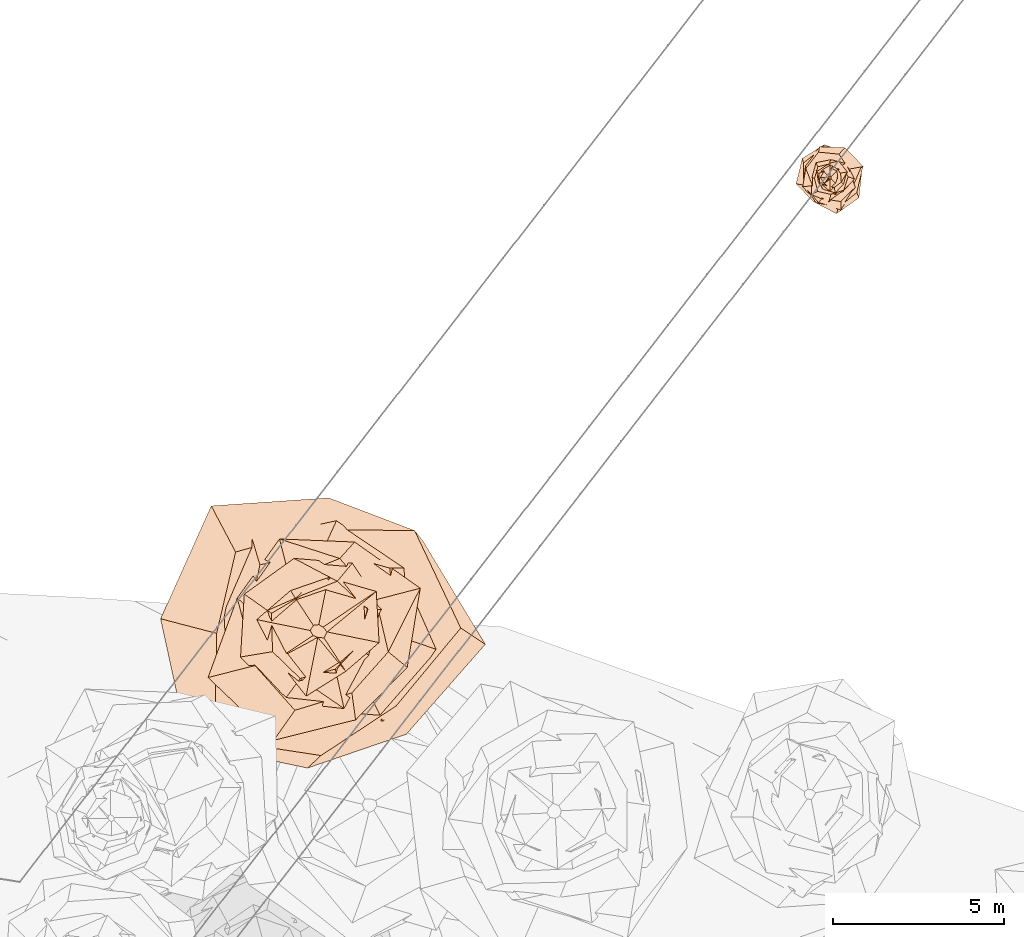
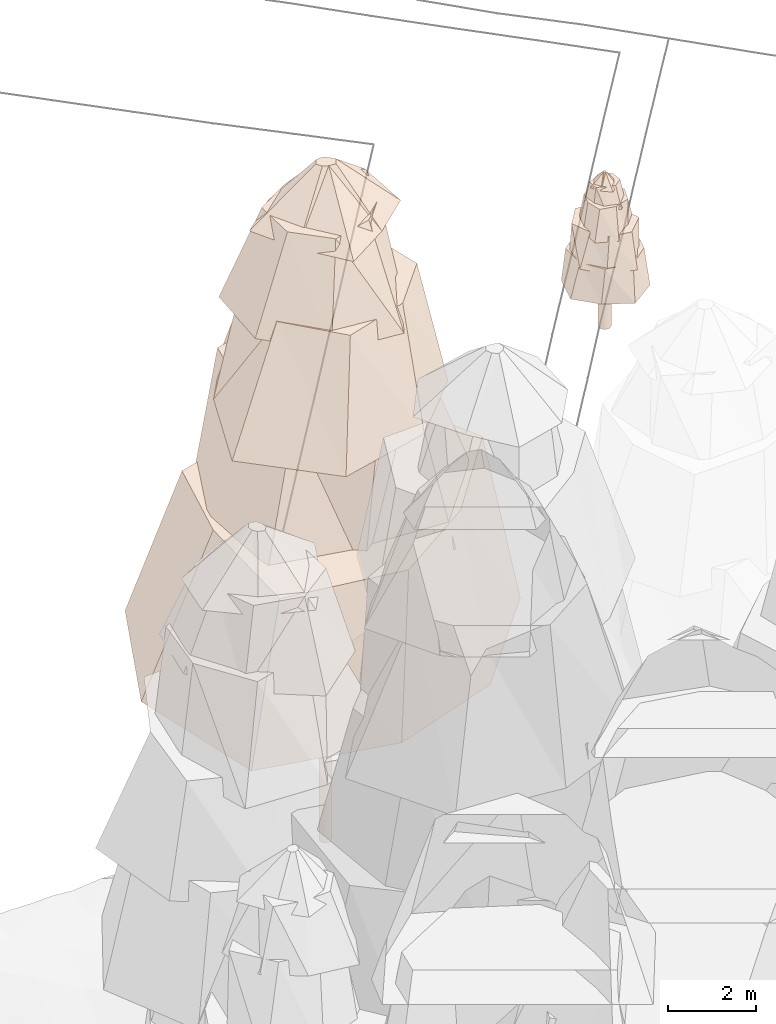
# Not in any storey, part 63 of 88: 2 geographic elements.
"""IFC4 model written with IfcOpenShell, lengths in metres."""

from ifc_helpers import new_model, si_unit, frame, origin_with_axes, place, context, subcontext, project, spatial, circle, extrude, faceted_brep, element, save


model = new_model("IFC4")

# Units and contexts
model_context = context("Model", 3, precision=1e-05, world=origin_with_axes())
body_context = subcontext(model_context, "Body", "Model", "MODEL_VIEW")
ifc_project = project(units=[si_unit("LENGTHUNIT", "METRE"), si_unit("AREAUNIT", "SQUARE_METRE"), si_unit("VOLUMEUNIT", "CUBIC_METRE"), si_unit("PLANEANGLEUNIT", "RADIAN")], contexts=[model_context])

# Sites
site_1_placement = place(None, origin_with_axes())
site_1 = spatial("IfcSite", under=ifc_project, at=site_1_placement, Name="CH907857693633", CompositionType="ELEMENT")
site_2_placement = place(None, origin_with_axes())
site_2 = spatial("IfcSite", under=site_1, at=site_2_placement, Name="Vegetation", CompositionType="ELEMENT")

# Geographic element
geographic_element_1_placement = place(None, frame((180.000000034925, 117.500003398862, 8.79296875), z_axis=(0.0, 0.0, 1.0), x_axis=(1.0, 0.0, 0.0)))
element("IfcGeographicElement", 1, at=geographic_element_1_placement, inside=site_2, Name="Tree_einzelbaum", ObjectType="VEGETATION", PredefinedType="USERDEFINED", context=body_context, shape_type="Brep", body=[
    extrude(circle(Radius=0.15), origin_with_axes(), (0.0, 0.0, 1.0), 1.18637976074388),
    faceted_brep([(0.845813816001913, -0.588965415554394, 1.18637976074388), (0.188372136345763, -1.05226440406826, 1.18637976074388), (-0.486950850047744, -0.699310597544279, 1.18637976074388), (-0.991410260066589, -0.177478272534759, 1.18637976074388), (-0.808964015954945, 0.563305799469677, 1.18637976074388), (-0.172510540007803, 0.963660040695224, 1.18637976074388), (0.499916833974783, 0.717931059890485, 1.18637976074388), (0.925909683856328, 0.16575262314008, 1.18637976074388), (0.948022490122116, 0.269674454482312, 2.1433260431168), (0.428035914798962, 0.768363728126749, 2.1433260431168), (-0.242442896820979, 0.852291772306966, 2.1433260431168), (-0.772822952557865, 0.43052003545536, 2.1433260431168), (-0.769503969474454, -0.21889308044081, 2.1433260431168), (-0.406570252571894, -0.729830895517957, 2.1433260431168), (0.246532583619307, -0.866668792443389, 2.1433260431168), (0.779845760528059, -0.434432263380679, 2.1433260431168), (0.925909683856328, 0.16575262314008, 1.18637976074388), (0.499916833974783, 0.717931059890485, 1.18637976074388), (0.428035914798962, 0.768363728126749, 2.1433260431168), (0.948022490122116, 0.269674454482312, 2.1433260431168), (0.499916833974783, 0.717931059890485, 1.18637976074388), (-0.172510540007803, 0.963660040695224, 1.18637976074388), (-0.242442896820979, 0.852291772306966, 2.1433260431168), (0.428035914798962, 0.768363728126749, 2.1433260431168), (-0.172510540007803, 0.963660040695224, 1.18637976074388), (-0.808964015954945, 0.563305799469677, 1.18637976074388), (-0.772822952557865, 0.43052003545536, 2.1433260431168), (-0.242442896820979, 0.852291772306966, 2.1433260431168), (-0.808964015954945, 0.563305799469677, 1.18637976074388), (-0.991410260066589, -0.177478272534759, 1.18637976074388), (-0.769503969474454, -0.21889308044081, 2.1433260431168), (-0.772822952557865, 0.43052003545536, 2.1433260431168), (-0.991410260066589, -0.177478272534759, 1.18637976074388), (-0.486950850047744, -0.699310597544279, 1.18637976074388), (-0.406570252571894, -0.729830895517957, 2.1433260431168), (-0.769503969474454, -0.21889308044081, 2.1433260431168), (-0.486950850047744, -0.699310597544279, 1.18637976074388), (0.188372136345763, -1.05226440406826, 1.18637976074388), (0.246532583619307, -0.866668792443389, 2.1433260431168), (-0.406570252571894, -0.729830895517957, 2.1433260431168), (0.188372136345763, -1.05226440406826, 1.18637976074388), (0.845813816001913, -0.588965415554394, 1.18637976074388), (0.779845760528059, -0.434432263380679, 2.1433260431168), (0.246532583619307, -0.866668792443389, 2.1433260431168), (0.845813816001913, -0.588965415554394, 1.18637976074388), (0.925909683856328, 0.16575262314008, 1.18637976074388), (0.948022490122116, 0.269674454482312, 2.1433260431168), (0.779845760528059, -0.434432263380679, 2.1433260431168)], [[[0, 1, 2, 3, 4, 5, 6, 7]], [[8, 9, 10, 11, 12, 13, 14, 15]], [[16, 17, 18, 19]], [[20, 21, 22, 23]], [[24, 25, 26, 27]], [[28, 29, 30, 31]], [[32, 33, 34, 35]], [[36, 37, 38, 39]], [[40, 41, 42, 43]], [[44, 45, 46, 47]]]),
    faceted_brep([(0.693019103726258, -0.345421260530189, 1.99978410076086), (0.314811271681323, -0.940491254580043, 1.99978410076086), (-0.368666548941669, -0.739656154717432, 1.99978410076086), (-0.798711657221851, -0.267353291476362, 1.99978410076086), (-0.716646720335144, 0.357197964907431, 1.99978410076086), (-0.303082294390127, 0.905451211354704, 1.99978410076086), (0.435364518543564, 0.873472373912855, 1.99978410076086), (0.974534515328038, 0.326206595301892, 1.99978410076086), (0.554407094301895, 0.249585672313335, 2.90299165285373), (0.260940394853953, 0.68825277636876, 2.90299165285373), (-0.33563963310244, 0.745559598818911, 2.90299165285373), (-0.708064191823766, 0.268451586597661, 2.90299165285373), (-0.510121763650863, -0.229649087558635, 2.90299165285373), (-0.232723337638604, -0.61382785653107, 2.90299165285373), (0.312809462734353, -0.694846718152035, 2.90299165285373), (0.736722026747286, -0.279316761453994, 2.90299165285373), (0.974534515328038, 0.326206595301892, 1.99978410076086), (0.435364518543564, 0.873472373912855, 1.99978410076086), (0.260940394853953, 0.68825277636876, 2.90299165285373), (0.554407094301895, 0.249585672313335, 2.90299165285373), (0.435364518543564, 0.873472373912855, 1.99978410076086), (-0.303082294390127, 0.905451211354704, 1.99978410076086), (-0.33563963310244, 0.745559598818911, 2.90299165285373), (0.260940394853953, 0.68825277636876, 2.90299165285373), (-0.303082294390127, 0.905451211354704, 1.99978410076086), (-0.716646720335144, 0.357197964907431, 1.99978410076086), (-0.708064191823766, 0.268451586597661, 2.90299165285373), (-0.33563963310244, 0.745559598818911, 2.90299165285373), (-0.716646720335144, 0.357197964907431, 1.99978410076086), (-0.798711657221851, -0.267353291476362, 1.99978410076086), (-0.510121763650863, -0.229649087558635, 2.90299165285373), (-0.708064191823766, 0.268451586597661, 2.90299165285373), (-0.798711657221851, -0.267353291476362, 1.99978410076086), (-0.368666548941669, -0.739656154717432, 1.99978410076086), (-0.232723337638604, -0.61382785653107, 2.90299165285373), (-0.510121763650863, -0.229649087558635, 2.90299165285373), (-0.368666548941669, -0.739656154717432, 1.99978410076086), (0.314811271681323, -0.940491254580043, 1.99978410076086), (0.312809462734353, -0.694846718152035, 2.90299165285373), (-0.232723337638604, -0.61382785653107, 2.90299165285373), (0.314811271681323, -0.940491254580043, 1.99978410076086), (0.693019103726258, -0.345421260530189, 1.99978410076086), (0.736722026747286, -0.279316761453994, 2.90299165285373), (0.312809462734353, -0.694846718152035, 2.90299165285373), (0.693019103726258, -0.345421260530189, 1.99978410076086), (0.974534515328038, 0.326206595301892, 1.99978410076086), (0.554407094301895, 0.249585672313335, 2.90299165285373), (0.736722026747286, -0.279316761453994, 2.90299165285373)], [[[0, 1, 2, 3, 4, 5, 6, 7]], [[8, 9, 10, 11, 12, 13, 14, 15]], [[16, 17, 18, 19]], [[20, 21, 22, 23]], [[24, 25, 26, 27]], [[28, 29, 30, 31]], [[32, 33, 34, 35]], [[36, 37, 38, 39]], [[40, 41, 42, 43]], [[44, 45, 46, 47]]]),
    faceted_brep([(0.715449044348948, -0.0342441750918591, 2.7675105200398), (0.374286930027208, -0.411917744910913, 2.7675105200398), (-0.0339044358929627, -0.708351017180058, 2.7675105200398), (-0.541830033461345, -0.49233105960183, 2.7675105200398), (-0.539339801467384, 0.0258149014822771, 2.7675105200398), (-0.41991438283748, 0.4621325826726, 2.7675105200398), (0.026300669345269, 0.549488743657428, 2.7675105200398), (0.473329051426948, 0.43008799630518, 2.7675105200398), (0.311575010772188, 0.34590881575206, 3.57726330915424), (-0.0209223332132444, 0.400657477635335, 3.57726330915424), (-0.355967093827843, 0.320634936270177, 3.57726330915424), (-0.452742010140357, -0.0236421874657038, 3.57726330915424), (-0.360592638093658, -0.400327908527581, 3.57726330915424), (0.0253698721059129, -0.485826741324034, 3.57726330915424), (0.401631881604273, -0.361767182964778, 3.57726330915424), (0.531113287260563, 0.0277347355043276, 3.57726330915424), (0.473329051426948, 0.43008799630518, 2.7675105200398), (0.026300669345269, 0.549488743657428, 2.7675105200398), (-0.0209223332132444, 0.400657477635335, 3.57726330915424), (0.311575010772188, 0.34590881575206, 3.57726330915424), (0.026300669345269, 0.549488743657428, 2.7675105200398), (-0.41991438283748, 0.4621325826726, 2.7675105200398), (-0.355967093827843, 0.320634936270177, 3.57726330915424), (-0.0209223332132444, 0.400657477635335, 3.57726330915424), (-0.41991438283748, 0.4621325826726, 2.7675105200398), (-0.539339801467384, 0.0258149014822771, 2.7675105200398), (-0.452742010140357, -0.0236421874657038, 3.57726330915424), (-0.355967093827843, 0.320634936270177, 3.57726330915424), (-0.539339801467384, 0.0258149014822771, 2.7675105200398), (-0.541830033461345, -0.49233105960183, 2.7675105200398), (-0.360592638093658, -0.400327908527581, 3.57726330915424), (-0.452742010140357, -0.0236421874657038, 3.57726330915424), (-0.541830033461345, -0.49233105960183, 2.7675105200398), (-0.0339044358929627, -0.708351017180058, 2.7675105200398), (0.0253698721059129, -0.485826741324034, 3.57726330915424), (-0.360592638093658, -0.400327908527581, 3.57726330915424), (-0.0339044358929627, -0.708351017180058, 2.7675105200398), (0.374286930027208, -0.411917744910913, 2.7675105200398), (0.401631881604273, -0.361767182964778, 3.57726330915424), (0.0253698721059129, -0.485826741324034, 3.57726330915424), (0.374286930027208, -0.411917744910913, 2.7675105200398), (0.715449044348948, -0.0342441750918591, 2.7675105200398), (0.531113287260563, 0.0277347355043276, 3.57726330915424), (0.401631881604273, -0.361767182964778, 3.57726330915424), (0.715449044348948, -0.0342441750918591, 2.7675105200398), (0.473329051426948, 0.43008799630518, 2.7675105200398), (0.311575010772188, 0.34590881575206, 3.57726330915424), (0.531113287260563, 0.0277347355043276, 3.57726330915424)], [[[0, 1, 2, 3, 4, 5, 6, 7]], [[8, 9, 10, 11, 12, 13, 14, 15]], [[16, 17, 18, 19]], [[20, 21, 22, 23]], [[24, 25, 26, 27]], [[28, 29, 30, 31]], [[32, 33, 34, 35]], [[36, 37, 38, 39]], [[40, 41, 42, 43]], [[44, 45, 46, 47]]]),
    faceted_brep([(0.414441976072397, -0.209619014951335, 3.45580039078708), (0.161794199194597, -0.492959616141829, 3.45580039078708), (-0.192906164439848, -0.381398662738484, 3.45580039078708), (-0.355028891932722, -0.116523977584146, 3.45580039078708), (-0.405852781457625, 0.205274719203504, 3.45580039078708), (-0.128559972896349, 0.391700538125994, 3.45580039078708), (0.246952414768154, 0.488254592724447, 3.45580039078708), (0.507542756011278, 0.16658052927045, 3.45580039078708), (0.306010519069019, 0.135604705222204, 4.00595782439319), (0.125030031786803, 0.324021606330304, 4.00595782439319), (-0.0961913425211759, 0.217068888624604, 4.00595782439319), (-0.327451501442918, 0.12635352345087, 4.00595782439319), (-0.303256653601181, -0.134384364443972, 4.00595782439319), (-0.0917065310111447, -0.237662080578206, 4.00595782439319), (0.125866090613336, -0.284034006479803, 4.00595782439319), (0.328935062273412, -0.126925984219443, 4.00595782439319), (0.507542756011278, 0.16658052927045, 3.45580039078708), (0.246952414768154, 0.488254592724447, 3.45580039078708), (0.125030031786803, 0.324021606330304, 4.00595782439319), (0.306010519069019, 0.135604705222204, 4.00595782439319), (0.246952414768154, 0.488254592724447, 3.45580039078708), (-0.128559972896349, 0.391700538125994, 3.45580039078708), (-0.0961913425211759, 0.217068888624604, 4.00595782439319), (0.125030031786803, 0.324021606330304, 4.00595782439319), (-0.128559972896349, 0.391700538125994, 3.45580039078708), (-0.405852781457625, 0.205274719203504, 3.45580039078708), (-0.327451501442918, 0.12635352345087, 4.00595782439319), (-0.0961913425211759, 0.217068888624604, 4.00595782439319), (-0.405852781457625, 0.205274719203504, 3.45580039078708), (-0.355028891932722, -0.116523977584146, 3.45580039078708), (-0.303256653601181, -0.134384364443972, 4.00595782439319), (-0.327451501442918, 0.12635352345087, 4.00595782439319), (-0.355028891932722, -0.116523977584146, 3.45580039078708), (-0.192906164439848, -0.381398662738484, 3.45580039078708), (-0.0917065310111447, -0.237662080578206, 4.00595782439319), (-0.303256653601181, -0.134384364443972, 4.00595782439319), (-0.192906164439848, -0.381398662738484, 3.45580039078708), (0.161794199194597, -0.492959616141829, 3.45580039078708), (0.125866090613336, -0.284034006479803, 4.00595782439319), (-0.0917065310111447, -0.237662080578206, 4.00595782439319), (0.161794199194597, -0.492959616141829, 3.45580039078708), (0.414441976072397, -0.209619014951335, 3.45580039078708), (0.328935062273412, -0.126925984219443, 4.00595782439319), (0.125866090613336, -0.284034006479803, 4.00595782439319), (0.414441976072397, -0.209619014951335, 3.45580039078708), (0.507542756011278, 0.16658052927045, 3.45580039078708), (0.306010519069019, 0.135604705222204, 4.00595782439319), (0.328935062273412, -0.126925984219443, 4.00595782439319)], [[[0, 1, 2, 3, 4, 5, 6, 7]], [[8, 9, 10, 11, 12, 13, 14, 15]], [[16, 17, 18, 19]], [[20, 21, 22, 23]], [[24, 25, 26, 27]], [[28, 29, 30, 31]], [[32, 33, 34, 35]], [[36, 37, 38, 39]], [[40, 41, 42, 43]], [[44, 45, 46, 47]]]),
    faceted_brep([(0.285338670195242, -0.00412584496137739, 3.92343420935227), (0.200428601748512, -0.20630982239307, 3.92343420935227), (-0.00562566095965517, -0.389064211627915, 3.92343420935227), (-0.222378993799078, -0.216039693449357, 3.92343420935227), (-0.362961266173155, 0.00524822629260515, 3.92343420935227), (-0.224888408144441, 0.231487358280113, 3.92343420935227), (0.00532041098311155, 0.367953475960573, 3.92343420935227), (0.26119166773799, 0.253745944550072, 3.92343420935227), (0.0272915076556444, 0.0324110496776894, 4.25761398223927), (-0.00301648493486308, 0.0351773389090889, 4.25761398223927), (-0.0289864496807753, 0.0244078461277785, 4.25761398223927), (-0.0340495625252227, -0.00291977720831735, 4.25761398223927), (-0.029882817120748, -0.035488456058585, 4.25761398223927), (0.00341291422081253, -0.0398003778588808, 4.25761398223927), (0.0331836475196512, -0.027942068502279, 4.25761398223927), (0.033776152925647, 0.00289633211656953, 4.25761398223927), (0.26119166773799, 0.253745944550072, 3.92343420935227), (0.00532041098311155, 0.367953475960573, 3.92343420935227), (-0.00301648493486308, 0.0351773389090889, 4.25761398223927), (0.0272915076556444, 0.0324110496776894, 4.25761398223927), (0.00532041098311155, 0.367953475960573, 3.92343420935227), (-0.224888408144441, 0.231487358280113, 3.92343420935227), (-0.0289864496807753, 0.0244078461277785, 4.25761398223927), (-0.00301648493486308, 0.0351773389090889, 4.25761398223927), (-0.224888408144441, 0.231487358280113, 3.92343420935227), (-0.362961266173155, 0.00524822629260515, 3.92343420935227), (-0.0340495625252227, -0.00291977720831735, 4.25761398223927), (-0.0289864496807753, 0.0244078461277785, 4.25761398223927), (-0.362961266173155, 0.00524822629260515, 3.92343420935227), (-0.222378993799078, -0.216039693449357, 3.92343420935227), (-0.029882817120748, -0.035488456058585, 4.25761398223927), (-0.0340495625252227, -0.00291977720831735, 4.25761398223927), (-0.222378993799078, -0.216039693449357, 3.92343420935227), (-0.00562566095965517, -0.389064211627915, 3.92343420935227), (0.00341291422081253, -0.0398003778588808, 4.25761398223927), (-0.029882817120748, -0.035488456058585, 4.25761398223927), (-0.00562566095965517, -0.389064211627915, 3.92343420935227), (0.200428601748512, -0.20630982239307, 3.92343420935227), (0.0331836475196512, -0.027942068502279, 4.25761398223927), (0.00341291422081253, -0.0398003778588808, 4.25761398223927), (0.200428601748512, -0.20630982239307, 3.92343420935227), (0.285338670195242, -0.00412584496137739, 3.92343420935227), (0.033776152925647, 0.00289633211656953, 4.25761398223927), (0.0331836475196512, -0.027942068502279, 4.25761398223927), (0.285338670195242, -0.00412584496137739, 3.92343420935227), (0.26119166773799, 0.253745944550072, 3.92343420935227), (0.0272915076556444, 0.0324110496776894, 4.25761398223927), (0.033776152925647, 0.00289633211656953, 4.25761398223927)], [[[0, 1, 2, 3, 4, 5, 6, 7]], [[8, 9, 10, 11, 12, 13, 14, 15]], [[16, 17, 18, 19]], [[20, 21, 22, 23]], [[24, 25, 26, 27]], [[28, 29, 30, 31]], [[32, 33, 34, 35]], [[36, 37, 38, 39]], [[40, 41, 42, 43]], [[44, 45, 46, 47]]]),
])

# Site
site_3_placement = place(None, origin_with_axes())
site_3 = spatial("IfcSite", under=site_1, at=site_3_placement, Name="Simulated_forest", CompositionType="ELEMENT")

# Geographic element
geographic_element_2_placement = place(None, frame((165.06578929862, 104.267374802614, 7.86767578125), z_axis=(0.0, 0.0, 1.0), x_axis=(1.0, 0.0, 0.0)))
element("IfcGeographicElement", 2, at=geographic_element_2_placement, inside=site_3, Name="Tree_SIMULATED_FOREST_DENSE", ObjectType="VEGETATION", PredefinedType="USERDEFINED", context=body_context, shape_type="Brep", body=[
    extrude(circle(Radius=0.15), origin_with_axes(), (0.0, 0.0, 1.0), 5.18723850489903),
    faceted_brep([(4.8735900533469, -0.382605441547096, 5.18723850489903), (2.5702751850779, -3.00821980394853, 5.18723850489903), (-0.313636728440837, -3.99507344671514, 5.18723850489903), (-3.81262960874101, -3.25757687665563, 5.18723850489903), (-4.60192695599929, 0.36127829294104, 5.18723850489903), (-3.12326787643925, 3.65543593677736, 5.18723850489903), (0.305334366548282, 3.88931878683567, 5.18723850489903), (3.0641521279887, 2.61806473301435, 5.18723850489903), (2.81119979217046, 2.93566657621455, 9.60978690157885), (-0.0641749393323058, 2.96307808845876, 9.60978690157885), (-2.41234200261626, 2.31006320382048, 9.60978690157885), (-2.96601564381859, -0.0642385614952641, 9.60978690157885), (-3.02021584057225, -3.15393687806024, 9.60978690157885), (0.0786211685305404, -3.63008775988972, 9.60978690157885), (2.27547205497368, -2.17899628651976, 9.60978690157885), (4.15761959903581, 0.0900465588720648, 9.60978690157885), (3.0641521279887, 2.61806473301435, 5.18723850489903), (0.305334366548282, 3.88931878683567, 5.18723850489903), (-0.0641749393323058, 2.96307808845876, 9.60978690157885), (2.81119979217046, 2.93566657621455, 9.60978690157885), (0.305334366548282, 3.88931878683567, 5.18723850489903), (-3.12326787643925, 3.65543593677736, 5.18723850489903), (-2.41234200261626, 2.31006320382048, 9.60978690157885), (-0.0641749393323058, 2.96307808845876, 9.60978690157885), (-3.12326787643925, 3.65543593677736, 5.18723850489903), (-4.60192695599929, 0.36127829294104, 5.18723850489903), (-2.96601564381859, -0.0642385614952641, 9.60978690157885), (-2.41234200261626, 2.31006320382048, 9.60978690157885), (-4.60192695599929, 0.36127829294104, 5.18723850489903), (-3.81262960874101, -3.25757687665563, 5.18723850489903), (-3.02021584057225, -3.15393687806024, 9.60978690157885), (-2.96601564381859, -0.0642385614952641, 9.60978690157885), (-3.81262960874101, -3.25757687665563, 5.18723850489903), (-0.313636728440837, -3.99507344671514, 5.18723850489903), (0.0786211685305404, -3.63008775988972, 9.60978690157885), (-3.02021584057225, -3.15393687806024, 9.60978690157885), (-0.313636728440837, -3.99507344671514, 5.18723850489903), (2.5702751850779, -3.00821980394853, 5.18723850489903), (2.27547205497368, -2.17899628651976, 9.60978690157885), (0.0786211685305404, -3.63008775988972, 9.60978690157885), (2.5702751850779, -3.00821980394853, 5.18723850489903), (4.8735900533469, -0.382605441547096, 5.18723850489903), (4.15761959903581, 0.0900465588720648, 9.60978690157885), (2.27547205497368, -2.17899628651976, 9.60978690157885), (4.8735900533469, -0.382605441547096, 5.18723850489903), (3.0641521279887, 2.61806473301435, 5.18723850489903), (2.81119979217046, 2.93566657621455, 9.60978690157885), (4.15761959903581, 0.0900465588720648, 9.60978690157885)], [[[0, 1, 2, 3, 4, 5, 6, 7]], [[8, 9, 10, 11, 12, 13, 14, 15]], [[16, 17, 18, 19]], [[20, 21, 22, 23]], [[24, 25, 26, 27]], [[28, 29, 30, 31]], [[32, 33, 34, 35]], [[36, 37, 38, 39]], [[40, 41, 42, 43]], [[44, 45, 46, 47]]]),
    faceted_brep([(3.65959762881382, -0.601417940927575, 8.94640464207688), (1.88706119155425, -2.62927556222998, 8.94640464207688), (-0.407232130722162, -2.47798683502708, 8.94640464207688), (-2.74796161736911, -1.97224353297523, 8.94640464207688), (-2.87719566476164, 0.472838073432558, 8.94640464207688), (-1.92501825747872, 2.68216181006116, 8.94640464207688), (0.529655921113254, 3.22292938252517, 8.94640464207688), (2.57504094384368, 1.84813638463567, 8.94640464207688), (2.08686416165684, 1.83962501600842, 12.9967786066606), (0.15045483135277, 2.38942448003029, 12.9967786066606), (-1.70308027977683, 1.93196829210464, 12.9967786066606), (-2.07724463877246, 0.130797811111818, 12.9967786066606), (-1.6998219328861, -1.49843722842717, 12.9967786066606), (-0.168918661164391, -2.68265485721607, 12.9967786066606), (1.36784307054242, -1.55167637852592, 12.9967786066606), (2.29807447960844, -0.144702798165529, 12.9967786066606), (2.57504094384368, 1.84813638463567, 8.94640464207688), (0.529655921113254, 3.22292938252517, 8.94640464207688), (0.15045483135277, 2.38942448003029, 12.9967786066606), (2.08686416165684, 1.83962501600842, 12.9967786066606), (0.529655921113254, 3.22292938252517, 8.94640464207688), (-1.92501825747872, 2.68216181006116, 8.94640464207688), (-1.70308027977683, 1.93196829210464, 12.9967786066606), (0.15045483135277, 2.38942448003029, 12.9967786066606), (-1.92501825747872, 2.68216181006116, 8.94640464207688), (-2.87719566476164, 0.472838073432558, 8.94640464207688), (-2.07724463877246, 0.130797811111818, 12.9967786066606), (-1.70308027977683, 1.93196829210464, 12.9967786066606), (-2.87719566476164, 0.472838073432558, 8.94640464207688), (-2.74796161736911, -1.97224353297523, 8.94640464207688), (-1.6998219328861, -1.49843722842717, 12.9967786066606), (-2.07724463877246, 0.130797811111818, 12.9967786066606), (-2.74796161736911, -1.97224353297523, 8.94640464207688), (-0.407232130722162, -2.47798683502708, 8.94640464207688), (-0.168918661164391, -2.68265485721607, 12.9967786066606), (-1.6998219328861, -1.49843722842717, 12.9967786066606), (-0.407232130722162, -2.47798683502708, 8.94640464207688), (1.88706119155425, -2.62927556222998, 8.94640464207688), (1.36784307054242, -1.55167637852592, 12.9967786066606), (-0.168918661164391, -2.68265485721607, 12.9967786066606), (1.88706119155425, -2.62927556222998, 8.94640464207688), (3.65959762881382, -0.601417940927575, 8.94640464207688), (2.29807447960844, -0.144702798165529, 12.9967786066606), (1.36784307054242, -1.55167637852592, 12.9967786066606), (3.65959762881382, -0.601417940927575, 8.94640464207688), (2.57504094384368, 1.84813638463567, 8.94640464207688), (2.08686416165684, 1.83962501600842, 12.9967786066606), (2.29807447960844, -0.144702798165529, 12.9967786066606)], [[[0, 1, 2, 3, 4, 5, 6, 7]], [[8, 9, 10, 11, 12, 13, 14, 15]], [[16, 17, 18, 19]], [[20, 21, 22, 23]], [[24, 25, 26, 27]], [[28, 29, 30, 31]], [[32, 33, 34, 35]], [[36, 37, 38, 39]], [[40, 41, 42, 43]], [[44, 45, 46, 47]]]),
    faceted_brep([(2.59541043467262, -1.05826992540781, 12.389222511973), (1.0897336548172, -2.59022413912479, 12.389222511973), (-1.29798105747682, -3.18330276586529, 12.389222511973), (-3.21637894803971, -1.3531633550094, 12.389222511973), (-2.36411557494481, 0.963960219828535, 12.389222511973), (-1.13156550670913, 2.6896556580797, 12.389222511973), (1.0604117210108, 2.60066319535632, 12.389222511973), (2.97676513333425, 1.25235538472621, 12.389222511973), (1.68733975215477, 0.917927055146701, 15.548258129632), (0.626182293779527, 2.12028206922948, 15.548258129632), (-0.83627261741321, 1.53724200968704, 15.548258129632), (-1.89960444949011, 0.561009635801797, 15.548258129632), (-1.84701369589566, -1.00479102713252, 15.548258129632), (-0.682246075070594, -2.31011661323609, 15.548258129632), (0.980126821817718, -1.8016757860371, 15.548258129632), (2.04337965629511, -0.603470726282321, 15.548258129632), (2.97676513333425, 1.25235538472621, 12.389222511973), (1.0604117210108, 2.60066319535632, 12.389222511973), (0.626182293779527, 2.12028206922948, 15.548258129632), (1.68733975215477, 0.917927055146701, 15.548258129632), (1.0604117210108, 2.60066319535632, 12.389222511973), (-1.13156550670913, 2.6896556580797, 12.389222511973), (-0.83627261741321, 1.53724200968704, 15.548258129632), (0.626182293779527, 2.12028206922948, 15.548258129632), (-1.13156550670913, 2.6896556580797, 12.389222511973), (-2.36411557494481, 0.963960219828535, 12.389222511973), (-1.89960444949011, 0.561009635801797, 15.548258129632), (-0.83627261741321, 1.53724200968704, 15.548258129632), (-2.36411557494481, 0.963960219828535, 12.389222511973), (-3.21637894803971, -1.3531633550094, 12.389222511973), (-1.84701369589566, -1.00479102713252, 15.548258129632), (-1.89960444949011, 0.561009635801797, 15.548258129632), (-3.21637894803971, -1.3531633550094, 12.389222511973), (-1.29798105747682, -3.18330276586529, 12.389222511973), (-0.682246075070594, -2.31011661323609, 15.548258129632), (-1.84701369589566, -1.00479102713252, 15.548258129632), (-1.29798105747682, -3.18330276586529, 12.389222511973), (1.0897336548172, -2.59022413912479, 12.389222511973), (0.980126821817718, -1.8016757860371, 15.548258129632), (-0.682246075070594, -2.31011661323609, 15.548258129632), (1.0897336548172, -2.59022413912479, 12.389222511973), (2.59541043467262, -1.05826992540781, 12.389222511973), (2.04337965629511, -0.603470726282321, 15.548258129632), (0.980126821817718, -1.8016757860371, 15.548258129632), (2.59541043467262, -1.05826992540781, 12.389222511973), (2.97676513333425, 1.25235538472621, 12.389222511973), (1.68733975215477, 0.917927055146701, 15.548258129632), (2.04337965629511, -0.603470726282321, 15.548258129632)], [[[0, 1, 2, 3, 4, 5, 6, 7]], [[8, 9, 10, 11, 12, 13, 14, 15]], [[16, 17, 18, 19]], [[20, 21, 22, 23]], [[24, 25, 26, 27]], [[28, 29, 30, 31]], [[32, 33, 34, 35]], [[36, 37, 38, 39]], [[40, 41, 42, 43]], [[44, 45, 46, 47]]]),
    faceted_brep([(1.54386494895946, -0.772583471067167, 15.0744027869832), (0.752105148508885, -2.2588546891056, 15.0744027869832), (-1.03343790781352, -2.06513421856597, 15.0744027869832), (-2.26844455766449, -0.755298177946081, 15.0744027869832), (-2.15855515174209, 1.0801877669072, 15.0744027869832), (-0.707034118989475, 2.12348943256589, 15.0744027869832), (0.992058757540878, 1.9824456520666, 15.0744027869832), (1.8936321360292, 0.630501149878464, 15.0744027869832), (1.43119980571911, 0.641562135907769, 17.5976346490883), (0.55502296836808, 1.45690932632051, 17.5976346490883), (-0.471189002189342, 1.05113062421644, 17.5976346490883), (-1.36439174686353, 0.519777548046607, 17.5976346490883), (-1.33547587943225, -0.598652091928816, 17.5976346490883), (-0.526553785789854, -1.38217905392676, 17.5976346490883), (0.496853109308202, -1.1083822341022, 17.5976346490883), (1.15139369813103, -0.438633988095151, 17.5976346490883), (1.8936321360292, 0.630501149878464, 15.0744027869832), (0.992058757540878, 1.9824456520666, 15.0744027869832), (0.55502296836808, 1.45690932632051, 17.5976346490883), (1.43119980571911, 0.641562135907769, 17.5976346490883), (0.992058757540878, 1.9824456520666, 15.0744027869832), (-0.707034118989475, 2.12348943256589, 15.0744027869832), (-0.471189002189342, 1.05113062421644, 17.5976346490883), (0.55502296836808, 1.45690932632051, 17.5976346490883), (-0.707034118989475, 2.12348943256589, 15.0744027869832), (-2.15855515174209, 1.0801877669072, 15.0744027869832), (-1.36439174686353, 0.519777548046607, 17.5976346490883), (-0.471189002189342, 1.05113062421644, 17.5976346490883), (-2.15855515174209, 1.0801877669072, 15.0744027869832), (-2.26844455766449, -0.755298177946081, 15.0744027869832), (-1.33547587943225, -0.598652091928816, 17.5976346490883), (-1.36439174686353, 0.519777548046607, 17.5976346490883), (-2.26844455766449, -0.755298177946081, 15.0744027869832), (-1.03343790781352, -2.06513421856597, 15.0744027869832), (-0.526553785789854, -1.38217905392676, 17.5976346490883), (-1.33547587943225, -0.598652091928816, 17.5976346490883), (-1.03343790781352, -2.06513421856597, 15.0744027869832), (0.752105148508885, -2.2588546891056, 15.0744027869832), (0.496853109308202, -1.1083822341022, 17.5976346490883), (-0.526553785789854, -1.38217905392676, 17.5976346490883), (0.752105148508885, -2.2588546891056, 15.0744027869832), (1.54386494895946, -0.772583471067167, 15.0744027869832), (1.15139369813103, -0.438633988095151, 17.5976346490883), (0.496853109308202, -1.1083822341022, 17.5976346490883), (1.54386494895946, -0.772583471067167, 15.0744027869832), (1.8936321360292, 0.630501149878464, 15.0744027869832), (1.43119980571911, 0.641562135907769, 17.5976346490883), (1.15139369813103, -0.438633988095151, 17.5976346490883)], [[[0, 1, 2, 3, 4, 5, 6, 7]], [[8, 9, 10, 11, 12, 13, 14, 15]], [[16, 17, 18, 19]], [[20, 21, 22, 23]], [[24, 25, 26, 27]], [[28, 29, 30, 31]], [[32, 33, 34, 35]], [[36, 37, 38, 39]], [[40, 41, 42, 43]], [[44, 45, 46, 47]]]),
    faceted_brep([(1.77555435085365, -0.332721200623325, 17.2191498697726), (0.802249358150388, -1.17225107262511, 17.2191498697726), (-0.355248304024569, -1.89576940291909, 17.2191498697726), (-1.19569853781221, -0.818296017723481, 17.2191498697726), (-1.79554662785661, 0.33646755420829, 17.2191498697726), (-0.80969268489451, 1.1831273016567, 17.2191498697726), (0.292934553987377, 1.56323438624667, 17.2191498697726), (1.69224772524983, 1.15811764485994, 17.2191498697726), (0.138260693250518, 0.116492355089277, 18.7105132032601), (0.0161505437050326, 0.189008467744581, 18.7105132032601), (-0.143444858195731, 0.170249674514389, 18.7105132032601), (-0.237716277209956, 0.0203125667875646, 18.7105132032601), (-0.153360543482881, -0.129214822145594, 18.7105132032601), (-0.0154748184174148, -0.181100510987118, 18.7105132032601), (0.167281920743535, -0.198541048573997, 18.7105132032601), (0.259369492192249, -0.0221628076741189, 18.7105132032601), (1.69224772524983, 1.15811764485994, 17.2191498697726), (0.292934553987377, 1.56323438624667, 17.2191498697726), (0.0161505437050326, 0.189008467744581, 18.7105132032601), (0.138260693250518, 0.116492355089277, 18.7105132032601), (0.292934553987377, 1.56323438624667, 17.2191498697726), (-0.80969268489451, 1.1831273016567, 17.2191498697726), (-0.143444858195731, 0.170249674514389, 18.7105132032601), (0.0161505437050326, 0.189008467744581, 18.7105132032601), (-0.80969268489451, 1.1831273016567, 17.2191498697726), (-1.79554662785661, 0.33646755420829, 17.2191498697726), (-0.237716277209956, 0.0203125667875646, 18.7105132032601), (-0.143444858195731, 0.170249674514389, 18.7105132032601), (-1.79554662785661, 0.33646755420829, 17.2191498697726), (-1.19569853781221, -0.818296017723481, 17.2191498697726), (-0.153360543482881, -0.129214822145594, 18.7105132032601), (-0.237716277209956, 0.0203125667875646, 18.7105132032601), (-1.19569853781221, -0.818296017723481, 17.2191498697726), (-0.355248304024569, -1.89576940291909, 17.2191498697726), (-0.0154748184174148, -0.181100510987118, 18.7105132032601), (-0.153360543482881, -0.129214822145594, 18.7105132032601), (-0.355248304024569, -1.89576940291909, 17.2191498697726), (0.802249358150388, -1.17225107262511, 17.2191498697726), (0.167281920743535, -0.198541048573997, 18.7105132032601), (-0.0154748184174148, -0.181100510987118, 18.7105132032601), (0.802249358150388, -1.17225107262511, 17.2191498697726), (1.77555435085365, -0.332721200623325, 17.2191498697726), (0.259369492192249, -0.0221628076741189, 18.7105132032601), (0.167281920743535, -0.198541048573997, 18.7105132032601), (1.77555435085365, -0.332721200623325, 17.2191498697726), (1.69224772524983, 1.15811764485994, 17.2191498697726), (0.138260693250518, 0.116492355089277, 18.7105132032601), (0.259369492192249, -0.0221628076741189, 18.7105132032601)], [[[0, 1, 2, 3, 4, 5, 6, 7]], [[8, 9, 10, 11, 12, 13, 14, 15]], [[16, 17, 18, 19]], [[20, 21, 22, 23]], [[24, 25, 26, 27]], [[28, 29, 30, 31]], [[32, 33, 34, 35]], [[36, 37, 38, 39]], [[40, 41, 42, 43]], [[44, 45, 46, 47]]]),
])

save(model, "model.ifc")
